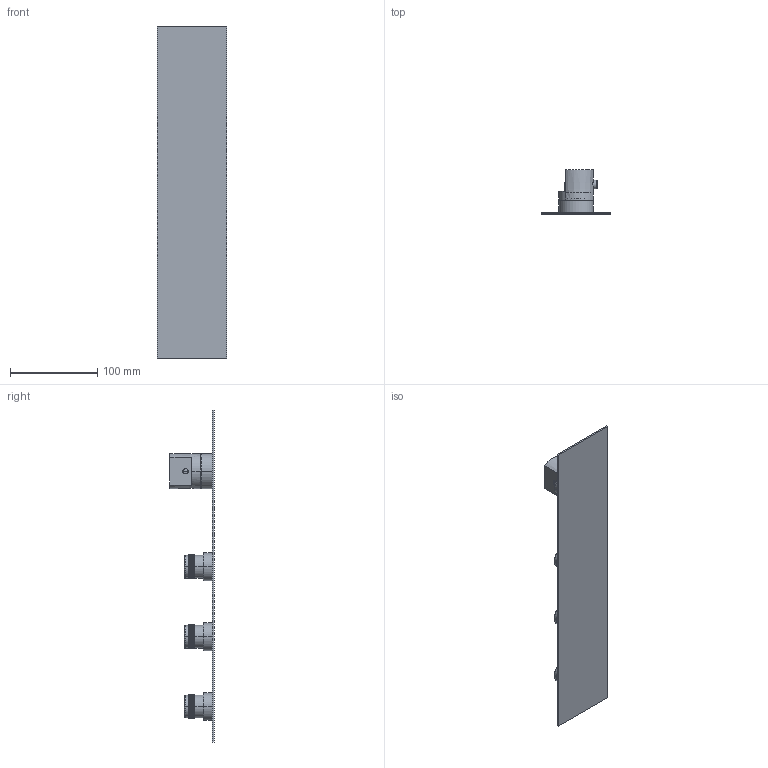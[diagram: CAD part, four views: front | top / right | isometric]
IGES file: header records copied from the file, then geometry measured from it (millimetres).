
Start section:  PTC IGES file: 89600v3.igs
Global section: file name: 89600v3.igs; native system: Creo Parametric by PTC Inc.; preprocessor: 2022014; author: carloff; organization: Unknown; date: 20251124.171038; units: millimetre
Bounding box: 80 x 50.8 x 380 mm (x, y, z)
Surface area: 85335.3 mm2 (no closed solid volume)
Topology: 0 solids, 0 shells, 5013 faces, 24936 edges, 24926 vertices
Faces by surface type: bspline 3886, revolution 1127
